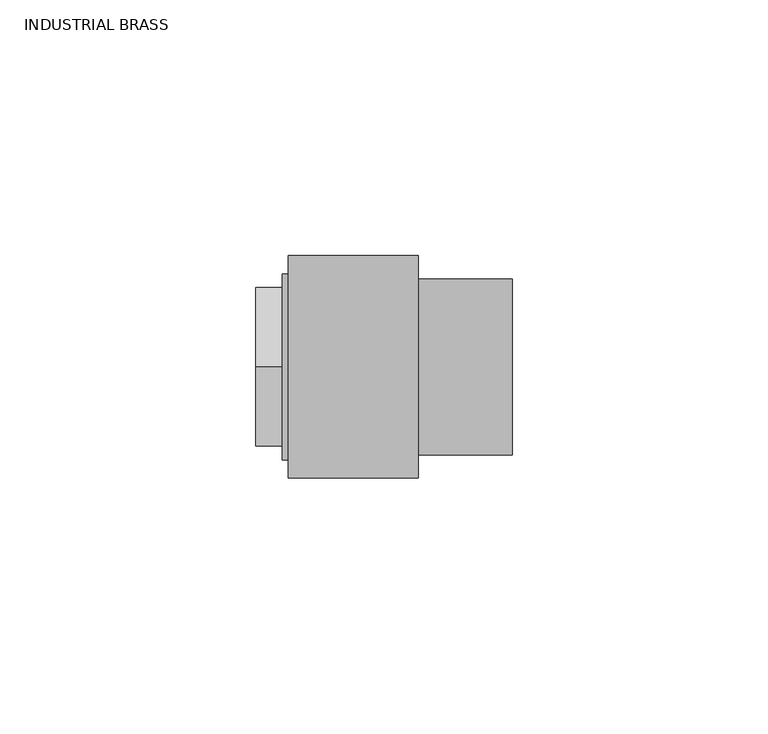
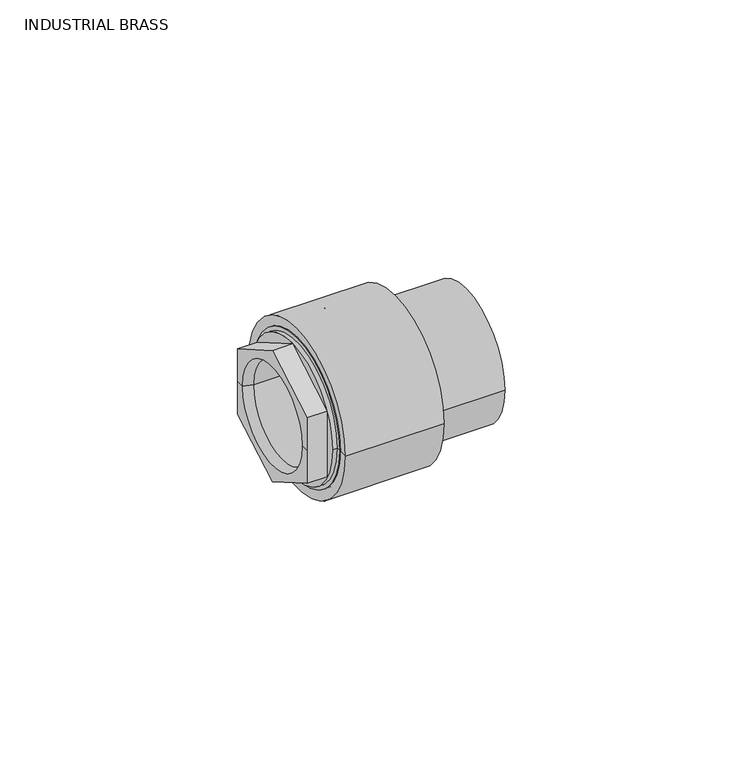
"""IFC4 building model written with IfcOpenShell, lengths in millimetres: valve geometry, Aquatherm - Transition Piece - F HEX : INDUSTRIAL BRASS."""

from ifc_helpers import new_model, si_unit, frame, origin, place, context, project, spatial, polyline, circle_curve, source, transform, mapped, element, save
from ifc_brep_helpers import plane_surface, cylinder_surface, revolved_surface, advanced_brep


def industrial_brass_5a09e288(model_context):
    return source(origin(), model_context, "Body", "AdvancedBrep", [
        advanced_brep(
        [(7.14375, -12.7, 0.0), (7.14375, 12.7, 0.0), (-3.7703125, 12.7, 0.0), (-3.7703125, -12.7, 0.0), (7.14375, -13.49375, 0.0), (7.14375, 13.49375, 0.0), (10.31875, -13.49375, 0.0), (10.31875, 13.49375, 0.0), (10.31875, -9.525, 0.0), (10.31875, 9.525, 0.0), (13.49375, -9.525, 0.0), (13.49375, 9.525, 0.0), (13.49375, -19.177, 0.0), (13.49375, 19.177, 0.0), (0.0, -19.177, 0.0), (0.0, 19.177, 0.0), (-6.35, -13.49375, 0.0), (-6.35, 13.49375, 0.0), (-6.35, 15.494, 0.0), (-6.35, 15.494, -8.9454651), (-6.35, 0.0, -17.8909301), (-6.35, -15.494, -8.9454651), (-6.35, -15.494, 0.0), (-6.35, -15.494, 8.9454651), (-6.35, 0.0, 17.8909301), (-6.35, 15.494, 8.9454651), (0.0, -18.161, 0.0), (0.0, 18.161, 0.0), (-1.190625, -18.161, 0.0), (-1.190625, 18.161, 0.0), (-1.190625, 0.0, -17.8909301), (-1.190625, 15.494, -8.9454651), (-1.190625, 15.494, 8.9454651), (-1.190625, 0.0, 17.8909301), (-1.190625, -15.494, 8.9454651), (-1.190625, -15.494, -8.9454651)],
        [
            (0, 1, circle_curve(frame((7.14375, 0.0, 0.0), z_axis=(1.0, 0.0, 0.0), x_axis=(0.0, 1.0, 0.0)), 12.7)),
            (1, 2),
            (2, 3, circle_curve(frame((-3.7703125, 0.0, 0.0), z_axis=(-1.0, 0.0, 0.0), x_axis=(0.0, 1.0, 0.0)), 12.7)),
            (3, 0),
            (1, 0, circle_curve(frame((7.14375, 0.0, 0.0), z_axis=(1.0, 0.0, 0.0), x_axis=(0.0, 1.0, 0.0)), 12.7)),
            (3, 2, circle_curve(frame((-3.7703125, 0.0, 0.0), z_axis=(-1.0, 0.0, 0.0), x_axis=(0.0, 1.0, 0.0)), 12.7)),
            (0, 4),
            (4, 5, circle_curve(frame((7.14375, 0.0, 0.0), z_axis=(1.0, 0.0, 0.0), x_axis=(0.0, 1.0, 0.0)), 13.49375)),
            (5, 1),
            (5, 4, circle_curve(frame((7.14375, 0.0, 0.0), z_axis=(1.0, 0.0, 0.0), x_axis=(0.0, 1.0, 0.0)), 13.49375)),
            (4, 6),
            (6, 7, circle_curve(frame((10.31875, 0.0, 0.0), z_axis=(1.0, 0.0, 0.0), x_axis=(0.0, 1.0, 0.0)), 13.49375)),
            (7, 5),
            (7, 6, circle_curve(frame((10.31875, 0.0, 0.0), z_axis=(1.0, 0.0, 0.0), x_axis=(0.0, 1.0, 0.0)), 13.49375)),
            (6, 8),
            (8, 9, circle_curve(frame((10.31875, 0.0, 0.0), z_axis=(1.0, 0.0, 0.0), x_axis=(0.0, 1.0, 0.0)), 9.525)),
            (9, 7),
            (9, 8, circle_curve(frame((10.31875, 0.0, 0.0), z_axis=(1.0, 0.0, 0.0), x_axis=(0.0, 1.0, 0.0)), 9.525)),
            (8, 10),
            (10, 11, circle_curve(frame((13.49375, 0.0, 0.0), z_axis=(1.0, 0.0, 0.0), x_axis=(0.0, 1.0, 0.0)), 9.525)),
            (11, 9),
            (11, 10, circle_curve(frame((13.49375, 0.0, 0.0), z_axis=(1.0, 0.0, 0.0), x_axis=(0.0, 1.0, 0.0)), 9.525)),
            (10, 12),
            (12, 13, circle_curve(frame((13.49375, 0.0, 0.0), z_axis=(1.0, 0.0, 0.0), x_axis=(0.0, 1.0, 0.0)), 19.177)),
            (13, 11),
            (13, 12, circle_curve(frame((13.49375, 0.0, 0.0), z_axis=(1.0, 0.0, 0.0), x_axis=(0.0, 1.0, 0.0)), 19.177)),
            (12, 14),
            (14, 15, circle_curve(frame((0.0, 0.0, 0.0), z_axis=(1.0, 0.0, 0.0), x_axis=(0.0, 1.0, 0.0)), 19.177)),
            (15, 13),
            (15, 14, circle_curve(frame((0.0, 0.0, 0.0), z_axis=(1.0, 0.0, 0.0), x_axis=(0.0, 1.0, 0.0)), 19.177)),
            (16, 17, circle_curve(frame((-6.35, 0.0, 0.0), z_axis=(1.0, 0.0, 0.0), x_axis=(0.0, 1.0, 0.0)), 13.49375)),
            (17, 18),
            (18, 19),
            (19, 20),
            (20, 21),
            (21, 22),
            (22, 16),
            (17, 16, circle_curve(frame((-6.35, 0.0, 0.0), z_axis=(1.0, 0.0, 0.0), x_axis=(0.0, 1.0, 0.0)), 13.49375)),
            (22, 23),
            (23, 24),
            (24, 25),
            (25, 18),
            (2, 17),
            (16, 3),
            (14, 26),
            (26, 27, circle_curve(frame((0.0, 0.0, 0.0), z_axis=(1.0, 0.0, 0.0), x_axis=(0.0, 1.0, 0.0)), 18.161)),
            (27, 15),
            (27, 26, circle_curve(frame((0.0, 0.0, 0.0), z_axis=(1.0, 0.0, 0.0), x_axis=(0.0, 1.0, 0.0)), 18.161)),
            (26, 28),
            (28, 29, circle_curve(frame((-1.190625, 0.0, 0.0), z_axis=(1.0, 0.0, 0.0), x_axis=(0.0, 1.0, 0.0)), 18.161)),
            (29, 27),
            (29, 28, circle_curve(frame((-1.190625, 0.0, 0.0), z_axis=(1.0, 0.0, 0.0), x_axis=(0.0, 1.0, 0.0)), 18.161)),
            (30, 31),
            (31, 32),
            (32, 33),
            (33, 34),
            (34, 35),
            (35, 30),
            (35, 21),
            (20, 30),
            (34, 23),
            (33, 24),
            (32, 25),
            (31, 19),
        ],
        [
            revolved_surface(polyline([(-3.7703125, 12.7, 0.0), (7.143749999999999, 12.7, 0.0)]), (-8.1832251, 0.0, 0.0), (-1.0, 0.0, 0.0)),
            plane_surface(frame((7.14375, 0.0, 0.0), z_axis=(1.0, 0.0, 0.0), x_axis=(0.0, 1.0, 0.0))),
            revolved_surface(polyline([(7.143749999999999, 13.49375, 0.0), (10.31875, 13.49375, 0.0)]), (-8.1832251, 0.0, 0.0), (-1.0, 0.0, 0.0)),
            plane_surface(frame((10.31875, 0.0, 0.0), z_axis=(-1.0, 0.0, 0.0), x_axis=(0.0, 1.0, 0.0))),
            revolved_surface(polyline([(10.31875, 9.525, 0.0), (13.49375, 9.525, 0.0)]), (-8.1832251, 0.0, 0.0), (-1.0, 0.0, 0.0)),
            plane_surface(frame((13.49375, 0.0, 0.0), z_axis=(1.0, 0.0, 0.0), x_axis=(0.0, 1.0, 0.0))),
            cylinder_surface(frame((-8.1832251, 0.0, 0.0), z_axis=(-1.0, 0.0, 0.0), x_axis=(0.0, 1.0, 0.0)), 19.177),
            plane_surface(frame((-6.35, 0.0, 0.0), z_axis=(-1.0, 0.0, 0.0), x_axis=(0.0, 1.0, 0.0))),
            revolved_surface(polyline([(-6.35, 13.49375, 0.0), (-3.7703125, 12.7, 0.0)]), (-8.1832251, 0.0, 0.0), (-1.0, 0.0, 0.0)),
            plane_surface(frame((0.0, 0.0, 0.0), z_axis=(-1.0, 0.0, 0.0), x_axis=(0.0, 1.0, 0.0))),
            cylinder_surface(frame((-8.1832251, 0.0, 0.0), z_axis=(-1.0, 0.0, 0.0), x_axis=(0.0, 1.0, 0.0)), 18.161),
            plane_surface(frame((-1.190625, -15.494, -8.9454651), z_axis=(-1.0000000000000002, 0.0, 0.0), x_axis=(0.0, -0.8660254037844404, 0.49999999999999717))),
            plane_surface(frame((-1.190625, 0.0, -17.8909301), z_axis=(0.0, -0.49999999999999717, -0.8660254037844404), x_axis=(-1.0, 0.0, 0.0))),
            plane_surface(frame((-1.190625, -15.494, -8.9454651), z_axis=(0.0, -1.0, 0.0), x_axis=(-1.0, 0.0, 0.0))),
            plane_surface(frame((-1.190625, -15.494, 8.9454651), z_axis=(0.0, -0.5000000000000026, 0.8660254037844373), x_axis=(-1.0, 0.0, 0.0))),
            plane_surface(frame((-1.190625, 0.0, 17.8909301), z_axis=(0.0, 0.4999999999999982, 0.8660254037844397), x_axis=(-1.0, 0.0, 0.0))),
            plane_surface(frame((-1.190625, 15.494, 8.9454651), z_axis=(0.0, 1.0, 0.0), x_axis=(-1.0, 0.0, 0.0))),
            plane_surface(frame((-1.190625, 15.494, -8.9454651), z_axis=(0.0, 0.5000000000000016, -0.8660254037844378), x_axis=(-1.0, 0.0, 0.0))),
        ],
        [
            (0, [[1, 2, 3, 4]]),
            (0, [[-2, 5, -4, 6]]),
            (1, [[-1, 7, 8, 9]]),
            (1, [[-5, -9, 10, -7]]),
            (2, [[-8, 11, 12, 13]]),
            (2, [[-10, -13, 14, -11]]),
            (3, [[-12, 15, 16, 17]]),
            (3, [[-14, -17, 18, -15]]),
            (4, [[-16, 19, 20, 21]]),
            (4, [[-18, -21, 22, -19]]),
            (5, [[-20, 23, 24, 25]]),
            (5, [[-22, -25, 26, -23]]),
            (6, [[-24, 27, 28, 29]]),
            (6, [[-26, -29, 30, -27]]),
            (7, [[31, 32, 33, 34, 35, 36, 37]]),
            (7, [[38, -37, 39, 40, 41, 42, -32]]),
            (8, [[-3, 43, -31, 44]]),
            (8, [[-6, -44, -38, -43]]),
            (9, [[-28, 45, 46, 47]]),
            (9, [[-30, -47, 48, -45]]),
            (10, [[-46, 49, 50, 51]]),
            (10, [[-48, -51, 52, -49]]),
            (11, [[-50, -52], [53, 54, 55, 56, 57, 58]]),
            (12, [[-58, 59, -35, 60]]),
            (13, [[-57, 61, -39, -36, -59]]),
            (14, [[-56, 62, -40, -61]]),
            (15, [[-55, 63, -41, -62]]),
            (16, [[-54, 64, -33, -42, -63]]),
            (17, [[-53, -60, -34, -64]]),
        ],
    ),
        advanced_brep(
        [(0.0, -21.717, 0.0), (0.0, 21.717, 0.0), (25.4, 21.717, 0.0), (25.4, -21.717, 0.0), (0.0, -19.177, 0.0), (0.0, 19.177, 0.0), (13.49375, -19.177, 0.0), (13.49375, 19.177, 0.0), (13.49375, -6.35, 0.0), (13.49375, 6.35, 0.0), (29.21, -6.35, 0.0), (29.21, 6.35, 0.0), (29.21, -10.033, 0.0), (29.21, 10.033, 0.0), (43.688, -10.033, 0.0), (43.688, 10.033, 0.0), (43.688, -17.2085, 0.0), (43.688, 17.2085, 0.0), (25.4, -17.2085, 0.0), (25.4, 17.2085, 0.0)],
        [
            (0, 1, circle_curve(frame((0.0, 0.0, 0.0), z_axis=(1.0, 0.0, 0.0), x_axis=(0.0, 1.0, 0.0)), 21.717)),
            (1, 2),
            (2, 3, circle_curve(frame((25.4, 0.0, 0.0), z_axis=(-1.0, 0.0, 0.0), x_axis=(0.0, 1.0, 0.0)), 21.717)),
            (3, 0),
            (1, 0, circle_curve(frame((0.0, 0.0, 0.0), z_axis=(1.0, 0.0, 0.0), x_axis=(0.0, 1.0, 0.0)), 21.717)),
            (3, 2, circle_curve(frame((25.4, 0.0, 0.0), z_axis=(-1.0, 0.0, 0.0), x_axis=(0.0, 1.0, 0.0)), 21.717)),
            (4, 5, circle_curve(frame((0.0, 0.0, 0.0), z_axis=(1.0, 0.0, 0.0), x_axis=(0.0, 1.0, 0.0)), 19.177)),
            (5, 1),
            (0, 4),
            (5, 4, circle_curve(frame((0.0, 0.0, 0.0), z_axis=(1.0, 0.0, 0.0), x_axis=(0.0, 1.0, 0.0)), 19.177)),
            (6, 7, circle_curve(frame((13.49375, 0.0, 0.0), z_axis=(1.0, 0.0, 0.0), x_axis=(0.0, 1.0, 0.0)), 19.177)),
            (7, 5),
            (4, 6),
            (7, 6, circle_curve(frame((13.49375, 0.0, 0.0), z_axis=(1.0, 0.0, 0.0), x_axis=(0.0, 1.0, 0.0)), 19.177)),
            (8, 9, circle_curve(frame((13.49375, 0.0, 0.0), z_axis=(1.0, 0.0, 0.0), x_axis=(0.0, 1.0, 0.0)), 6.35)),
            (9, 7),
            (6, 8),
            (9, 8, circle_curve(frame((13.49375, 0.0, 0.0), z_axis=(1.0, 0.0, 0.0), x_axis=(0.0, 1.0, 0.0)), 6.35)),
            (10, 11, circle_curve(frame((29.21, 0.0, 0.0), z_axis=(1.0, 0.0, 0.0), x_axis=(0.0, 1.0, 0.0)), 6.35)),
            (11, 9),
            (8, 10),
            (11, 10, circle_curve(frame((29.21, 0.0, 0.0), z_axis=(1.0, 0.0, 0.0), x_axis=(0.0, 1.0, 0.0)), 6.35)),
            (12, 13, circle_curve(frame((29.21, 0.0, 0.0), z_axis=(1.0, 0.0, 0.0), x_axis=(0.0, 1.0, 0.0)), 10.033)),
            (13, 11),
            (10, 12),
            (13, 12, circle_curve(frame((29.21, 0.0, 0.0), z_axis=(1.0, 0.0, 0.0), x_axis=(0.0, 1.0, 0.0)), 10.033)),
            (14, 15, circle_curve(frame((43.688, 0.0, 0.0), z_axis=(1.0, 0.0, 0.0), x_axis=(0.0, 1.0, 0.0)), 10.033)),
            (15, 13),
            (12, 14),
            (15, 14, circle_curve(frame((43.688, 0.0, 0.0), z_axis=(1.0, 0.0, 0.0), x_axis=(0.0, 1.0, 0.0)), 10.033)),
            (16, 17, circle_curve(frame((43.688, 0.0, 0.0), z_axis=(1.0, 0.0, 0.0), x_axis=(0.0, 1.0, 0.0)), 17.2085)),
            (17, 15),
            (14, 16),
            (17, 16, circle_curve(frame((43.688, 0.0, 0.0), z_axis=(1.0, 0.0, 0.0), x_axis=(0.0, 1.0, 0.0)), 17.2085)),
            (18, 19, circle_curve(frame((25.4, 0.0, 0.0), z_axis=(1.0, 0.0, 0.0), x_axis=(0.0, 1.0, 0.0)), 17.2085)),
            (19, 17),
            (16, 18),
            (19, 18, circle_curve(frame((25.4, 0.0, 0.0), z_axis=(1.0, 0.0, 0.0), x_axis=(0.0, 1.0, 0.0)), 17.2085)),
            (2, 19),
            (18, 3),
        ],
        [
            cylinder_surface(frame((-14.4531162, 0.0, 0.0), z_axis=(-1.0, 0.0, 0.0), x_axis=(0.0, 1.0, 0.0)), 21.717),
            plane_surface(frame((0.0, 0.0, 0.0), z_axis=(-1.0, 0.0, 0.0), x_axis=(0.0, 1.0, 0.0))),
            revolved_surface(polyline([(0.0, 19.177, 0.0), (13.493750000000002, 19.177, 0.0)]), (-14.4531162, 0.0, 0.0), (-1.0, 0.0, 0.0)),
            plane_surface(frame((13.49375, 0.0, 0.0), z_axis=(-1.0, 0.0, 0.0), x_axis=(0.0, 1.0, 0.0))),
            revolved_surface(polyline([(13.493750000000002, 6.35, 0.0), (29.210000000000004, 6.35, 0.0)]), (-14.4531162, 0.0, 0.0), (-1.0, 0.0, 0.0)),
            plane_surface(frame((29.21, 0.0, 0.0), z_axis=(1.0, 0.0, 0.0), x_axis=(0.0, 1.0, 0.0))),
            revolved_surface(polyline([(29.210000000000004, 10.033, 0.0), (43.688, 10.033, 0.0)]), (-14.4531162, 0.0, 0.0), (-1.0, 0.0, 0.0)),
            plane_surface(frame((43.688, 0.0, 0.0), z_axis=(1.0, 0.0, 0.0), x_axis=(0.0, 1.0, 0.0))),
            cylinder_surface(frame((-14.4531162, 0.0, 0.0), z_axis=(-1.0, 0.0, 0.0), x_axis=(0.0, 1.0, 0.0)), 17.2085),
            plane_surface(frame((25.4, 0.0, 0.0), z_axis=(1.0, 0.0, 0.0), x_axis=(0.0, 1.0, 0.0))),
        ],
        [
            (0, [[1, 2, 3, 4]]),
            (0, [[5, -4, 6, -2]]),
            (1, [[7, 8, -1, 9]]),
            (1, [[10, -9, -5, -8]]),
            (2, [[11, 12, -7, 13]]),
            (2, [[14, -13, -10, -12]]),
            (3, [[15, 16, -11, 17]]),
            (3, [[18, -17, -14, -16]]),
            (4, [[19, 20, -15, 21]]),
            (4, [[22, -21, -18, -20]]),
            (5, [[23, 24, -19, 25]]),
            (5, [[26, -25, -22, -24]]),
            (6, [[27, 28, -23, 29]]),
            (6, [[30, -29, -26, -28]]),
            (7, [[31, 32, -27, 33]]),
            (7, [[34, -33, -30, -32]]),
            (8, [[35, 36, -31, 37]]),
            (8, [[38, -37, -34, -36]]),
            (9, [[-3, 39, -35, 40]]),
            (9, [[-6, -40, -38, -39]]),
        ],
    ),
    ])


if __name__ == "__main__":
    model = new_model("IFC4")
    model_context = context("Model", 3, world=origin())
    ifc_project = project(units=[si_unit("LENGTHUNIT", "METRE", prefix="MILLI")], contexts=[model_context])
    site = spatial("IfcSite", under=ifc_project)
    building = spatial("IfcBuilding", under=site)
    placement = place(None, origin())
    industrial_brass_shape = industrial_brass_5a09e288(model_context)
    element("IfcValve", 1, ObjectType="Aquatherm - Transition Piece - F HEX : INDUSTRIAL BRASS", at=placement, inside=building, context=model_context, shape_type="MappedRepresentation", body=[
        mapped(industrial_brass_shape, transform((0.0, 0.0, 0.0), x_axis=(1.0, 0.0, 0.0), y_axis=(0.0, 1.0, 0.0), z_axis=(0.0, 0.0, 1.0))),
    ])
    save(model, "model.ifc")
